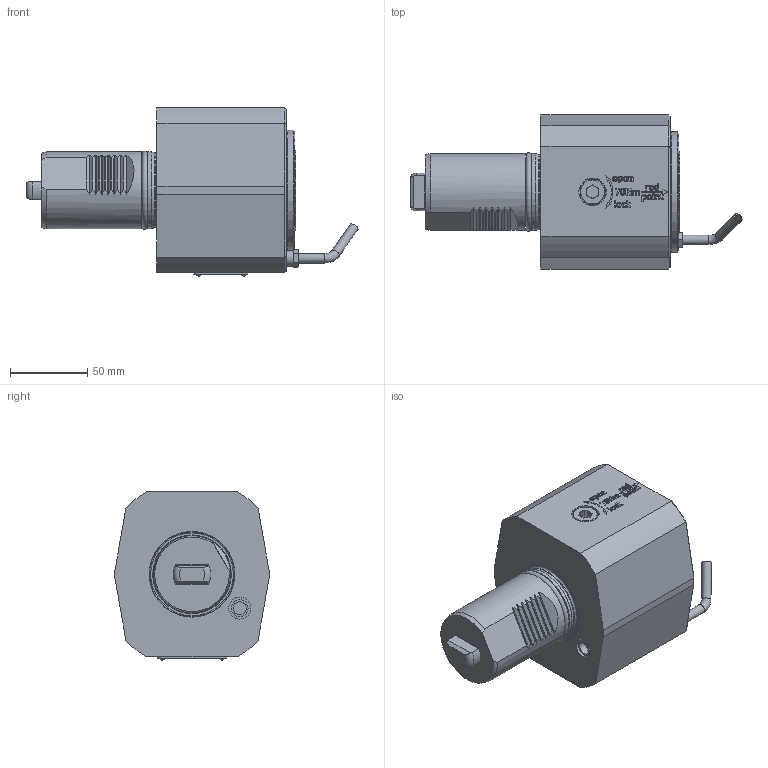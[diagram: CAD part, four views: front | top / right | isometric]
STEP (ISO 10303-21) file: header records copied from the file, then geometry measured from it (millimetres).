
FILE_DESCRIPTION(/* description */ (''),/* implementation_level */ '2;1');
FILE_NAME(/* name */ '201130-UNI',/* time_stamp */ '2024-04-24T07:19:27+02:00',/* author */ (''),/* organization */ (''),/* preprocessor_version */ 'ST-DEVELOPER v16.5',/* originating_system */ 'HiCAD 2017 2201.0 Build 268',/* authorisation */ '');
FILE_SCHEMA (('AUTOMOTIVE_DESIGN { 1 0 10303 214 1 1 1 1 }'));
Products named in the file (11): Root; Teil; Leeres Teil; TRANSLATIONSTEIL_2; TRANSLATIONSTEIL_3; TRANSLATIONSTEIL_4; Lasermarkierungen; TRANSLATIONSTEIL_6; TRANSLATIONSTEIL_0; TRANSLATIONSTEIL_1
Assembly tree (10 placements, depth 4):
  Root
    Teil
      Leeres Teil
        TRANSLATIONSTEIL_2
        TRANSLATIONSTEIL_3
        TRANSLATIONSTEIL_4
      Lasermarkierungen
        TRANSLATIONSTEIL_6
        TRANSLATIONSTEIL_0
        TRANSLATIONSTEIL_2
        TRANSLATIONSTEIL_1
Bounding box: 215.53 x 100 x 109.37 mm (x, y, z)
Volume: 951625 mm3; surface area: 81123.9 mm2
Topology: 28 solids, 34 shells, 835 faces, 2118 edges, 1396 vertices
Faces by surface type: plane 456, bspline 126, cylinder 124, torus 74, cone 51, sphere 4
Full cylindrical faces by diameter (mm): 2 x4, 2.2 x4, 3 x1, 4 x2, 6 x2, 8.1 x1, 8.5 x1, 10 x1, 10.82 x1, 14.18 x1, 14.27 x1, 15.4 x2, 16 x1, 17.8 x3, 19.05 x1, 22.2 x1, 24.8 x1, 31.5 x1, 39.2 x1, 43.8 x1, 48.7 x1, 50 x2, 52 x1, 70 x1, 75 x1, 78 x1
Entity records: 53275 total; most frequent: CARTESIAN_POINT 12315, PRESENTATION_STYLE_ASSIGNMENT 4401, OVER_RIDING_STYLED_ITEM 4393, COLOUR_RGB 4061, DRAUGHTING_PRE_DEFINED_CURVE_FONT 4052, CURVE_STYLE 4052, ORIENTED_EDGE 4052, DIRECTION 3503
